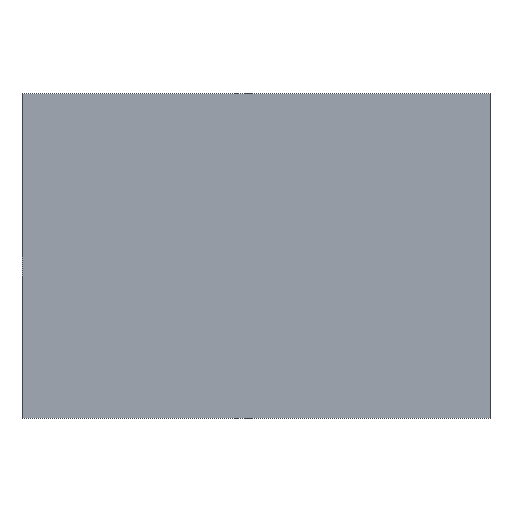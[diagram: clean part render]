
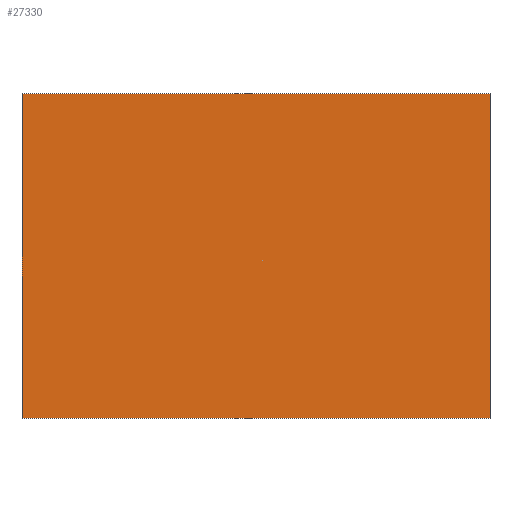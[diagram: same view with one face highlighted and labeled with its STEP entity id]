
A CAD part, left-side view. The second image highlights one B-rep face of the part: STEP entity #27330.
In plain terms, the highlighted planar face has unit normal (-1, 0, 0) as drawn and (0, 0, 1) by its records, which use the part's own axes.
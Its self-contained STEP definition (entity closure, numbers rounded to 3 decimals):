
#25870=CARTESIAN_POINT('',(1663.,2582.,18.));
#25880=VERTEX_POINT('',#25870);
#25930=CARTESIAN_POINT('',(-1000.,2582.,18.));
#25940=DIRECTION('',(1.,0.,0.));
#25950=VECTOR('',#25940,1.);
#25960=LINE('',#25930,#25950);
#25970=CARTESIAN_POINT('',(-137.,2582.,18.));
#25980=VERTEX_POINT('',#25970);
#25990=EDGE_CURVE('',#25980,#25880,#25960,.T.);
#26910=CARTESIAN_POINT('',(-137.,-18.,
18.));
#26920=VERTEX_POINT('',#26910);
#26950=CARTESIAN_POINT('',(-1000.,-18.,
18.));
#26960=DIRECTION('',(1.,0.,0.));
#26970=VECTOR('',#26960,1.);
#26980=LINE('',#26950,#26970);
#26990=CARTESIAN_POINT('',(1663.,-18.,
18.));
#27000=VERTEX_POINT('',#26990);
#27010=EDGE_CURVE('',#26920,#27000,#26980,.T.);
#27120=CARTESIAN_POINT('',(-1000.,-3.,
18.));
#27130=DIRECTION('',(0.,0.,1.));
#27140=DIRECTION('',(-1.,0.,0.));
#27150=AXIS2_PLACEMENT_3D('',#27120,#27130,#27140);
#27160=PLANE('',#27150);
#27170=CARTESIAN_POINT('',(-137.,-18.,
18.));
#27180=DIRECTION('',(0.,1.,0.));
#27190=VECTOR('',#27180,1.);
#27200=LINE('',#27170,#27190);
#27210=EDGE_CURVE('',#26920,#25980,#27200,.T.);
#27220=ORIENTED_EDGE('',*,*,#27210,.F.);
#27230=ORIENTED_EDGE('',*,*,#25990,.F.);
#27240=CARTESIAN_POINT('',(1663.,-3.,
18.));
#27250=DIRECTION('',(0.,1.,0.));
#27260=VECTOR('',#27250,1.);
#27270=LINE('',#27240,#27260);
#27280=EDGE_CURVE('',#27000,#25880,#27270,.T.);
#27290=ORIENTED_EDGE('',*,*,#27280,.T.);
#27300=ORIENTED_EDGE('',*,*,#27010,.T.);
#27310=EDGE_LOOP('',(#27300,#27290,#27230,#27220));
#27320=FACE_OUTER_BOUND('',#27310,.T.);
#27330=ADVANCED_FACE('',(#27320),#27160,.T.);
